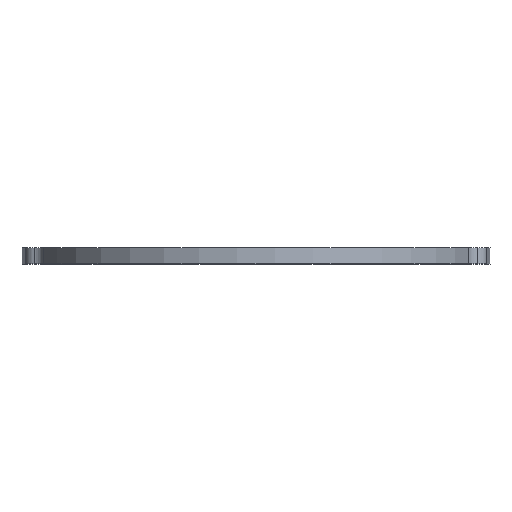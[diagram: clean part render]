
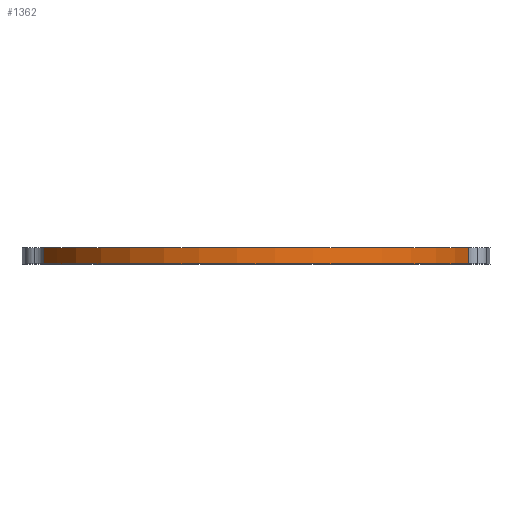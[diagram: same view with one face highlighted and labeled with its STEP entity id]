
A CAD part, top view. The second image highlights one B-rep face of the part: STEP entity #1362.
In plain terms, the highlighted cylindrical face has radius 82.55 mm (diameter 165.1 mm), a partial arc.
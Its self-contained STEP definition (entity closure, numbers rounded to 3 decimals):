
#119 = ORIENTED_EDGE ( 'NONE', *, *, #273, .T. ) ;
#122 = CARTESIAN_POINT ( 'NONE',  ( 79.416, 6., 22.531 ) ) ;
#131 = DIRECTION ( 'NONE',  ( 0., -1., 0. ) ) ;
#161 = AXIS2_PLACEMENT_3D ( 'NONE', #1327, #911, #274 ) ;
#164 = LINE ( 'NONE', #276, #1155 ) ;
#200 = VERTEX_POINT ( 'NONE', #481 ) ;
#273 = EDGE_CURVE ( 'NONE', #1120, #888, #1182, .T. ) ;
#274 = DIRECTION ( 'NONE',  ( 0., 0., -1. ) ) ;
#276 = CARTESIAN_POINT ( 'NONE',  ( -79.416, 6., 22.531 ) ) ;
#290 = VECTOR ( 'NONE', #1659, 1000. ) ;
#335 = AXIS2_PLACEMENT_3D ( 'NONE', #838, #1073, #1209 ) ;
#373 = FACE_OUTER_BOUND ( 'NONE', #668, .T. ) ;
#395 = CARTESIAN_POINT ( 'NONE',  ( -79.416, 6., 22.531 ) ) ;
#480 = EDGE_CURVE ( 'NONE', #806, #888, #1011, .T. ) ;
#481 = CARTESIAN_POINT ( 'NONE',  ( -79.416, 0., 22.531 ) ) ;
#624 = EDGE_CURVE ( 'NONE', #200, #1120, #1502, .T. ) ;
#651 = ORIENTED_EDGE ( 'NONE', *, *, #480, .F. ) ;
#668 = EDGE_LOOP ( 'NONE', ( #1250, #119, #651, #1642 ) ) ;
#743 = DIRECTION ( 'NONE',  ( 0., 0., -1. ) ) ;
#806 = VERTEX_POINT ( 'NONE', #395 ) ;
#829 = CARTESIAN_POINT ( 'NONE',  ( 79.416, 0., 22.531 ) ) ;
#838 = CARTESIAN_POINT ( 'NONE',  ( 0., 6., 0. ) ) ;
#888 = VERTEX_POINT ( 'NONE', #122 ) ;
#911 = DIRECTION ( 'NONE',  ( 0., 1., 0. ) ) ;
#1011 = CIRCLE ( 'NONE', #161, 82.55 ) ;
#1073 = DIRECTION ( 'NONE',  ( 0., -1., 0. ) ) ;
#1120 = VERTEX_POINT ( 'NONE', #829 ) ;
#1155 = VECTOR ( 'NONE', #131, 1000. ) ;
#1182 = LINE ( 'NONE', #1544, #290 ) ;
#1209 = DIRECTION ( 'NONE',  ( 0., 0., -1. ) ) ;
#1236 = CYLINDRICAL_SURFACE ( 'NONE', #335, 82.55 ) ;
#1250 = ORIENTED_EDGE ( 'NONE', *, *, #624, .T. ) ;
#1298 = AXIS2_PLACEMENT_3D ( 'NONE', #1514, #1508, #743 ) ;
#1327 = CARTESIAN_POINT ( 'NONE',  ( 0., 6., 0. ) ) ;
#1362 = ADVANCED_FACE ( 'NONE', ( #373 ), #1236, .T. ) ;
#1502 = CIRCLE ( 'NONE', #1298, 82.55 ) ;
#1508 = DIRECTION ( 'NONE',  ( 0., 1., 0. ) ) ;
#1514 = CARTESIAN_POINT ( 'NONE',  ( 0., 0., 0. ) ) ;
#1516 = EDGE_CURVE ( 'NONE', #806, #200, #164, .T. ) ;
#1544 = CARTESIAN_POINT ( 'NONE',  ( 79.416, 6., 22.531 ) ) ;
#1642 = ORIENTED_EDGE ( 'NONE', *, *, #1516, .T. ) ;
#1659 = DIRECTION ( 'NONE',  ( 0., 1., 0. ) ) ;
